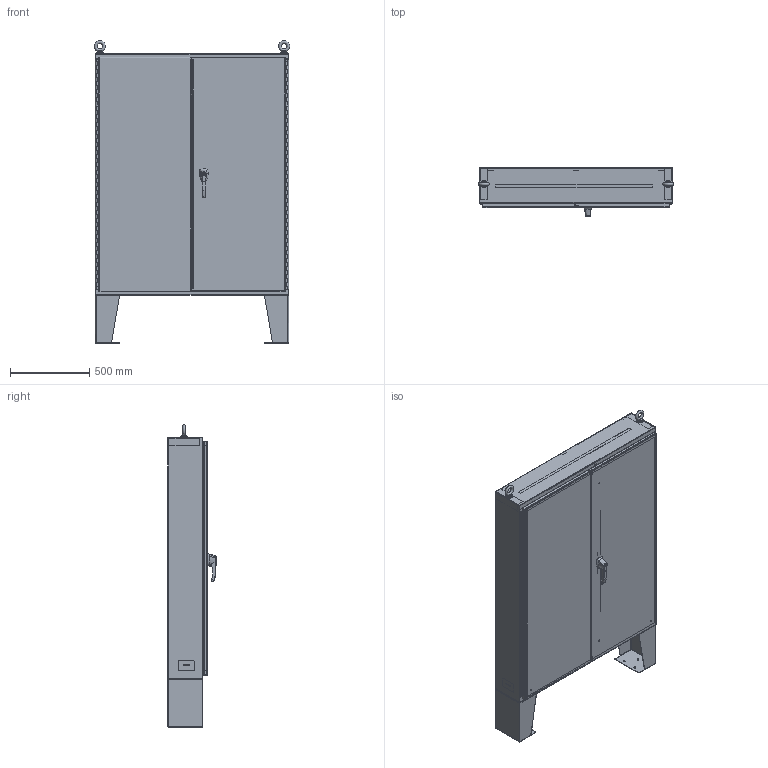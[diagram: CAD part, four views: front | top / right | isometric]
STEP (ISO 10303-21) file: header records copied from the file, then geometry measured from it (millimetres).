
FILE_DESCRIPTION(/* description */ ('Unknown'),/* implementation_level */ '2;1');
FILE_NAME(/* name */ '1422B8F',/* time_stamp */ '2018-10-16T12:50:53-04:00',/* author */ ('Unknown'),/* organization */ ('Unknown'),/* preprocessor_version */ 'ST-DEVELOPER v16.7',/* originating_system */ 'DEX',/* authorisation */ $);
FILE_SCHEMA (('AUTOMOTIVE_DESIGN {1 0 10303 214 3 1 1}'));
Length unit declared in the file: millimetre
Products named in the file (58): 1422B8F; COM55702-58; NTS166905; scs00680; WAF25362; WAM254785; COM40563; COM56740-2; STD26265; STD21878; COM56694-2; COM54578-56; COM52260-1; COM52267-1; COM52271-1; KIT90256; LAB30005; NTS165305; NTS16535; COM50521; BUL10020; PKT1212; std26094; COM54928-1; COM43132; AKT95002; WAF25059; NTS166105; COM50798-2; COM50799-2; NTS16640; HAN13066; HAN13066_SCREW; HAN13066_NUT; HAN_NUT; COM52909; GSK11033_oa_0; SPC87323; GSK11033_oa_1; GSK11033_oa_2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
Assembly tree (93 placements, depth 4):
  1422B8F
    COM55702-58  x3
    NTS166905  x2
    scs00680  x2
    WAF25362  x2
    WAM254785  x2
    COM40563  x2
    COM56740-2
      STD26265  x2
      STD21878
      COM56694-2
      COM54578-56
    COM52260-1
    COM52267-1
    COM52271-1
    KIT90256
      LAB30005
      NTS165305
      NTS16535
    COM50521  x2
    BUL10020
    PKT1212
    std26094  x8
    COM54928-1  x2
    STD21878  x2
    COM43132
    AKT95002  x8
      WAF25059
      NTS166105
    COM50798-2
      COM50799-2
      COM54578-56
      STD21878
    NTS16640
    HAN13066
      HAN13066
      HAN13066_SCREW
      HAN13066_NUT
      HAN_NUT
    COM52909
    GSK11033_oa_0
    SPC87323
    GSK11033_oa_1
    GSK11033_oa_2
    GSK11033_oa_3
    GSK11033_oa_4
    GSK11033_oa_5
    GSK11033_oa_6
    COM70840-2_oa_7
      COM70838
      COM70839-2_oa_8
        COM70839-2
      RVT19000
      RVT19000
      RVT17786  x2
      NTS18147  x2
      WAM30038  x2
      COM70839-2_oa_9
        COM70839-2
      WAF25376  x4
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Bounding box: 1234.51 x 303.85 x 1912.93 mm (x, y, z)
Volume: 21828323.3 mm3; surface area: 17007109.1 mm2
Topology: 92 solids, 92 shells, 2530 faces, 6532 edges, 4233 vertices
Faces by surface type: plane 1454, cylinder 771, bspline 186, cone 77, torus 36, sphere 6
Full cylindrical faces by diameter (mm): 2.54 x2, 4.394 x1, 4.976 x1, 5.893 x1, 5.918 x1, 6.35 x9, 6.528 x4, 7.112 x4, 7.137 x6, 7.722 x20, 7.805 x9, 7.95 x2, 8.128 x1, 8.255 x1, 8.382 x8, 8.484 x1, 8.89 x1, 9.398 x2, 9.525 x9, 9.906 x2, 10.49 x2, 11.1 x14, 11.125 x1, 11.176 x2, 11.303 x8, 13.335 x1, 13.376 x2, 14.287 x8, 15.24 x1, 15.85 x2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
Entity records: 54893 total; most frequent: CARTESIAN_POINT 13487, ORIENTED_EDGE 8436, DIRECTION 7906, EDGE_CURVE 4218, VERTEX_POINT 2777, LINE 2672, VECTOR 2672, AXIS2_PLACEMENT_3D 2617
